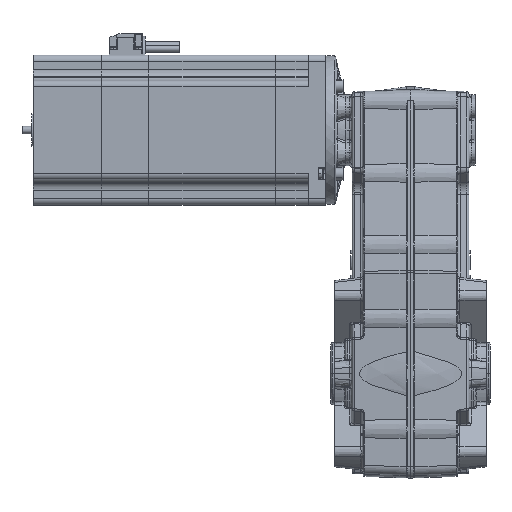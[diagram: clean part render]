
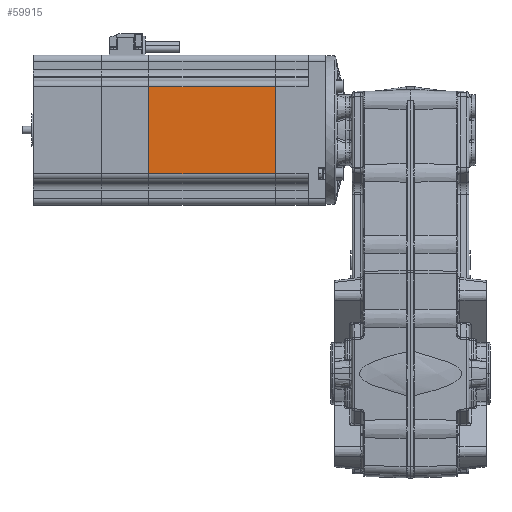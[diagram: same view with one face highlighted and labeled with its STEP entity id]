
A CAD part, front view. The second image highlights one B-rep face of the part: STEP entity #59915.
In plain terms, the highlighted planar face has unit normal (0, -1, 0) as drawn and (1, 0, 0) by its records, which use the part's own axes.
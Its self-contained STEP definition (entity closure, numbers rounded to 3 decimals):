
#5487 = EDGE_CURVE ( 'NONE', #22333, #13355, #117826, .T. ) ;
#5693 = DIRECTION ( 'NONE',  ( 0., 0., -1. ) ) ;
#5694 = PLANE ( 'NONE',  #35703 ) ;
#8275 = DIRECTION ( 'NONE',  ( 0., 0., -1. ) ) ;
#10149 = CARTESIAN_POINT ( 'NONE',  ( 60.35, -3., 40. ) ) ;
#10636 = CARTESIAN_POINT ( 'NONE',  ( 60.35, -105., 35. ) ) ;
#11409 = EDGE_CURVE ( 'NONE', #76278, #52674, #21282, .T. ) ;
#13355 = VERTEX_POINT ( 'NONE', #81644 ) ;
#21282 = LINE ( 'NONE', #10636, #43005 ) ;
#22333 = VERTEX_POINT ( 'NONE', #114483 ) ;
#26389 = CARTESIAN_POINT ( 'NONE',  ( 60.35, -105., 40. ) ) ;
#28928 = CARTESIAN_POINT ( 'NONE',  ( 60.35, -105., 35. ) ) ;
#29551 = ORIENTED_EDGE ( 'NONE', *, *, #11409, .T. ) ;
#31620 = DIRECTION ( 'NONE',  ( 0., 1., 0. ) ) ;
#33771 = VECTOR ( 'NONE', #8275, 1000. ) ;
#34987 = EDGE_CURVE ( 'NONE', #76278, #13355, #66639, .T. ) ;
#35703 = AXIS2_PLACEMENT_3D ( 'NONE', #26389, #55266, #31620 ) ;
#37417 = CARTESIAN_POINT ( 'NONE',  ( 60.35, -3., 35. ) ) ;
#38847 = VECTOR ( 'NONE', #69491, 1000. ) ;
#40013 = EDGE_CURVE ( 'NONE', #52674, #22333, #43372, .T. ) ;
#43005 = VECTOR ( 'NONE', #48314, 1000. ) ;
#43372 = LINE ( 'NONE', #54050, #93371 ) ;
#48314 = DIRECTION ( 'NONE',  ( 0., -1., 0. ) ) ;
#52674 = VERTEX_POINT ( 'NONE', #28928 ) ;
#54050 = CARTESIAN_POINT ( 'NONE',  ( 60.35, -105., 40. ) ) ;
#55266 = DIRECTION ( 'NONE',  ( 1., 0., 0. ) ) ;
#58339 = EDGE_LOOP ( 'NONE', ( #124134, #59748, #100538, #29551 ) ) ;
#59748 = ORIENTED_EDGE ( 'NONE', *, *, #5487, .T. ) ;
#59915 = ADVANCED_FACE ( 'NONE', ( #83535 ), #5694, .T. ) ;
#66639 = LINE ( 'NONE', #10149, #33771 ) ;
#68256 = CARTESIAN_POINT ( 'NONE',  ( 60.35, -105., -35. ) ) ;
#69491 = DIRECTION ( 'NONE',  ( 0., 1., 0. ) ) ;
#76278 = VERTEX_POINT ( 'NONE', #37417 ) ;
#81644 = CARTESIAN_POINT ( 'NONE',  ( 60.35, -3., -35. ) ) ;
#83535 = FACE_OUTER_BOUND ( 'NONE', #58339, .T. ) ;
#93371 = VECTOR ( 'NONE', #5693, 1000. ) ;
#100538 = ORIENTED_EDGE ( 'NONE', *, *, #34987, .F. ) ;
#114483 = CARTESIAN_POINT ( 'NONE',  ( 60.35, -105., -35. ) ) ;
#117826 = LINE ( 'NONE', #68256, #38847 ) ;
#124134 = ORIENTED_EDGE ( 'NONE', *, *, #40013, .T. ) ;
